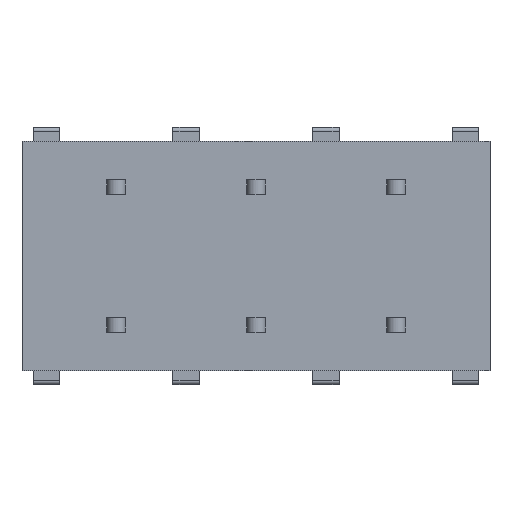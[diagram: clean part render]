
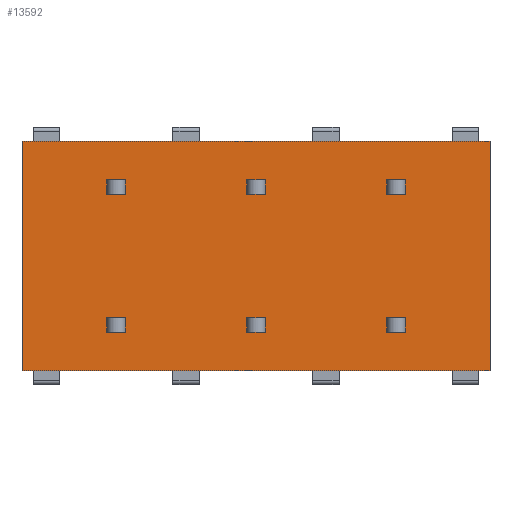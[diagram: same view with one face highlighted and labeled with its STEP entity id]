
A CAD part, front view. The second image highlights one B-rep face of the part: STEP entity #13592.
In plain terms, the highlighted planar face has unit normal (0, -1, 0).
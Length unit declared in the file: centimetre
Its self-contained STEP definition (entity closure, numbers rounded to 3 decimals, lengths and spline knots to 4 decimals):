
#876=VERTEX_POINT('',#17209);
#877=VERTEX_POINT('',#17210);
#880=VERTEX_POINT('',#17218);
#881=VERTEX_POINT('',#17219);
#886=VERTEX_POINT('',#17232);
#890=VERTEX_POINT('',#17243);
#905=VERTEX_POINT('',#17287);
#907=VERTEX_POINT('',#17295);
#1241=VERTEX_POINT('',#18794);
#1242=VERTEX_POINT('',#18796);
#1406=VERTEX_POINT('',#19343);
#1407=VERTEX_POINT('',#19344);
#1410=VERTEX_POINT('',#19352);
#1416=VERTEX_POINT('',#19367);
#1417=VERTEX_POINT('',#19368);
#1420=VERTEX_POINT('',#19376);
#1422=VERTEX_POINT('',#19382);
#1443=VERTEX_POINT('',#19443);
#1614=VERTEX_POINT('',#20022);
#1615=VERTEX_POINT('',#20023);
#1618=VERTEX_POINT('',#20031);
#1624=VERTEX_POINT('',#20046);
#1625=VERTEX_POINT('',#20047);
#1628=VERTEX_POINT('',#20055);
#1630=VERTEX_POINT('',#20061);
#1651=VERTEX_POINT('',#20122);
#2075=VERTEX_POINT('',#21894);
#2076=VERTEX_POINT('',#21896);
#2209=VECTOR('',#14426,1.);
#2213=VECTOR('',#14431,1.);
#2220=VECTOR('',#14439,1.);
#2225=VECTOR('',#14447,1.);
#2241=VECTOR('',#14484,1.);
#2244=VECTOR('',#14492,1.);
#2247=VECTOR('',#14500,1.);
#2248=VECTOR('',#14502,1.);
#2646=VECTOR('',#15036,1.);
#2814=VECTOR('',#15417,1.);
#2818=VECTOR('',#15422,1.);
#2824=VECTOR('',#15432,1.);
#2827=VECTOR('',#15438,1.);
#2830=VECTOR('',#15442,1.);
#2852=VECTOR('',#15491,1.);
#2853=VECTOR('',#15493,1.);
#2857=VECTOR('',#15498,1.);
#3038=VECTOR('',#15899,1.);
#3042=VECTOR('',#15904,1.);
#3048=VECTOR('',#15914,1.);
#3051=VECTOR('',#15920,1.);
#3054=VECTOR('',#15924,1.);
#3076=VECTOR('',#15973,1.);
#3077=VECTOR('',#15975,1.);
#3081=VECTOR('',#15980,1.);
#3595=VECTOR('',#16736,1.);
#3599=VECTOR('',#16742,1.);
#3600=VECTOR('',#16744,1.);
#3737=LINE('',#17208,#2209);
#3741=LINE('',#17217,#2213);
#3748=LINE('',#17231,#2220);
#3753=LINE('',#17242,#2225);
#3769=LINE('',#17286,#2241);
#3772=LINE('',#17294,#2244);
#3775=LINE('',#17302,#2247);
#3776=LINE('',#17304,#2248);
#4174=LINE('',#18795,#2646);
#4342=LINE('',#19342,#2814);
#4346=LINE('',#19351,#2818);
#4352=LINE('',#19366,#2824);
#4355=LINE('',#19375,#2827);
#4358=LINE('',#19381,#2830);
#4380=LINE('',#19440,#2852);
#4381=LINE('',#19442,#2853);
#4385=LINE('',#19449,#2857);
#4566=LINE('',#20021,#3038);
#4570=LINE('',#20030,#3042);
#4576=LINE('',#20045,#3048);
#4579=LINE('',#20054,#3051);
#4582=LINE('',#20060,#3054);
#4604=LINE('',#20119,#3076);
#4605=LINE('',#20121,#3077);
#4609=LINE('',#20128,#3081);
#5123=LINE('',#21895,#3595);
#5127=LINE('',#21902,#3599);
#5128=LINE('',#21904,#3600);
#5336=EDGE_CURVE('',#876,#877,#3737,.T.);
#5340=EDGE_CURVE('',#880,#881,#3741,.T.);
#5347=EDGE_CURVE('',#886,#876,#3748,.T.);
#5353=EDGE_CURVE('',#890,#880,#3753,.T.);
#5375=EDGE_CURVE('',#877,#905,#3769,.T.);
#5379=EDGE_CURVE('',#881,#907,#3772,.T.);
#5383=EDGE_CURVE('',#907,#890,#3775,.T.);
#5384=EDGE_CURVE('',#905,#886,#3776,.T.);
#5886=EDGE_CURVE('',#1242,#1241,#4174,.T.);
#6137=EDGE_CURVE('',#1406,#1407,#4342,.T.);
#6141=EDGE_CURVE('',#1410,#1406,#4346,.T.);
#6148=EDGE_CURVE('',#1416,#1417,#4352,.T.);
#6152=EDGE_CURVE('',#1420,#1416,#4355,.T.);
#6155=EDGE_CURVE('',#1422,#1420,#4358,.T.);
#6184=EDGE_CURVE('',#1417,#1422,#4380,.T.);
#6185=EDGE_CURVE('',#1443,#1410,#4381,.T.);
#6189=EDGE_CURVE('',#1407,#1443,#4385,.T.);
#6453=EDGE_CURVE('',#1614,#1615,#4566,.T.);
#6457=EDGE_CURVE('',#1618,#1614,#4570,.T.);
#6464=EDGE_CURVE('',#1624,#1625,#4576,.T.);
#6468=EDGE_CURVE('',#1628,#1624,#4579,.T.);
#6471=EDGE_CURVE('',#1630,#1628,#4582,.T.);
#6500=EDGE_CURVE('',#1625,#1630,#4604,.T.);
#6501=EDGE_CURVE('',#1651,#1618,#4605,.T.);
#6505=EDGE_CURVE('',#1615,#1651,#4609,.T.);
#7147=EDGE_CURVE('',#2076,#2075,#5123,.T.);
#7151=EDGE_CURVE('',#1241,#2076,#5127,.T.);
#7152=EDGE_CURVE('',#1242,#2075,#5128,.T.);
#11149=ORIENTED_EDGE('',*,*,#5379,.F.);
#11150=ORIENTED_EDGE('',*,*,#5340,.F.);
#11151=ORIENTED_EDGE('',*,*,#5353,.F.);
#11152=ORIENTED_EDGE('',*,*,#5383,.F.);
#11153=ORIENTED_EDGE('',*,*,#5375,.F.);
#11154=ORIENTED_EDGE('',*,*,#5336,.F.);
#11155=ORIENTED_EDGE('',*,*,#5347,.F.);
#11156=ORIENTED_EDGE('',*,*,#5384,.F.);
#11157=ORIENTED_EDGE('',*,*,#6457,.T.);
#11158=ORIENTED_EDGE('',*,*,#6453,.T.);
#11159=ORIENTED_EDGE('',*,*,#6505,.T.);
#11160=ORIENTED_EDGE('',*,*,#6501,.T.);
#11161=ORIENTED_EDGE('',*,*,#6471,.T.);
#11162=ORIENTED_EDGE('',*,*,#6468,.T.);
#11163=ORIENTED_EDGE('',*,*,#6464,.T.);
#11164=ORIENTED_EDGE('',*,*,#6500,.T.);
#11165=ORIENTED_EDGE('',*,*,#6155,.T.);
#11166=ORIENTED_EDGE('',*,*,#6152,.T.);
#11167=ORIENTED_EDGE('',*,*,#6148,.T.);
#11168=ORIENTED_EDGE('',*,*,#6184,.T.);
#11169=ORIENTED_EDGE('',*,*,#6141,.T.);
#11170=ORIENTED_EDGE('',*,*,#6137,.T.);
#11171=ORIENTED_EDGE('',*,*,#6189,.T.);
#11172=ORIENTED_EDGE('',*,*,#6185,.T.);
#11173=ORIENTED_EDGE('',*,*,#7147,.T.);
#11174=ORIENTED_EDGE('',*,*,#7152,.F.);
#11175=ORIENTED_EDGE('',*,*,#5886,.T.);
#11176=ORIENTED_EDGE('',*,*,#7151,.T.);
#12013=EDGE_LOOP('',(#11149,#11150,#11151,#11152));
#12014=EDGE_LOOP('',(#11153,#11154,#11155,#11156));
#12015=EDGE_LOOP('',(#11157,#11158,#11159,#11160));
#12016=EDGE_LOOP('',(#11161,#11162,#11163,#11164));
#12017=EDGE_LOOP('',(#11165,#11166,#11167,#11168));
#12018=EDGE_LOOP('',(#11169,#11170,#11171,#11172));
#12019=EDGE_LOOP('',(#11173,#11174,#11175,#11176));
#12833=FACE_BOUND('',#12013,.T.);
#12834=FACE_BOUND('',#12014,.T.);
#12835=FACE_BOUND('',#12015,.T.);
#12836=FACE_BOUND('',#12016,.T.);
#12837=FACE_BOUND('',#12017,.T.);
#12838=FACE_BOUND('',#12018,.T.);
#12839=FACE_BOUND('',#12019,.T.);
#13592=ADVANCED_FACE('',(#12833,#12834,#12835,#12836,#12837,#12838,#12839),
#14122,.T.);
#14122=PLANE('',#22724);
#14426=DIRECTION('',(0.,0.,1.));
#14431=DIRECTION('',(0.,0.,-1.));
#14439=DIRECTION('',(1.,0.,0.));
#14447=DIRECTION('',(-1.,0.,0.));
#14484=DIRECTION('',(-1.,0.,0.));
#14492=DIRECTION('',(1.,0.,0.));
#14500=DIRECTION('',(0.,0.,1.));
#14502=DIRECTION('',(0.,0.,-1.));
#15036=DIRECTION('',(0.,0.,1.));
#15417=DIRECTION('',(0.,0.,-1.));
#15422=DIRECTION('',(1.,0.,0.));
#15432=DIRECTION('',(1.,0.,0.));
#15438=DIRECTION('',(0.,0.,1.));
#15442=DIRECTION('',(-1.,0.,0.));
#15491=DIRECTION('',(0.,0.,-1.));
#15493=DIRECTION('',(0.,0.,1.));
#15498=DIRECTION('',(-1.,0.,0.));
#15899=DIRECTION('',(0.,0.,-1.));
#15904=DIRECTION('',(1.,0.,0.));
#15914=DIRECTION('',(1.,0.,0.));
#15920=DIRECTION('',(0.,0.,1.));
#15924=DIRECTION('',(-1.,0.,0.));
#15973=DIRECTION('',(0.,0.,-1.));
#15975=DIRECTION('',(0.,0.,1.));
#15980=DIRECTION('',(-1.,0.,0.));
#16736=DIRECTION('',(0.,0.,-1.));
#16742=DIRECTION('',(-1.,0.,0.));
#16743=DIRECTION('',(0.,-1.,0.));
#16744=DIRECTION('',(-1.,0.,0.));
#17208=CARTESIAN_POINT('',(-0.26,0.,-0.1875));
#17209=CARTESIAN_POINT('',(-0.26,0.,-0.415));
#17210=CARTESIAN_POINT('',(-0.26,0.,-0.335));
#17217=CARTESIAN_POINT('',(-0.36,0.,0.1875));
#17218=CARTESIAN_POINT('',(-0.36,0.,0.415));
#17219=CARTESIAN_POINT('',(-0.36,0.,0.335));
#17231=CARTESIAN_POINT('',(-0.465,0.,-0.415));
#17232=CARTESIAN_POINT('',(-0.36,0.,-0.415));
#17242=CARTESIAN_POINT('',(-0.465,0.,0.415));
#17243=CARTESIAN_POINT('',(-0.26,0.,0.415));
#17286=CARTESIAN_POINT('',(-0.465,0.,-0.335));
#17287=CARTESIAN_POINT('',(-0.36,0.,-0.335));
#17294=CARTESIAN_POINT('',(-0.465,0.,0.335));
#17295=CARTESIAN_POINT('',(-0.26,0.,0.335));
#17302=CARTESIAN_POINT('',(-0.26,0.,0.1875));
#17304=CARTESIAN_POINT('',(-0.36,0.,-0.1875));
#18794=CARTESIAN_POINT('',(1.726,0.,0.625));
#18795=CARTESIAN_POINT('',(1.726,0.,-0.625));
#18796=CARTESIAN_POINT('',(1.726,0.,-0.625));
#19342=CARTESIAN_POINT('',(1.264,0.,-0.1875));
#19343=CARTESIAN_POINT('',(1.264,0.,-0.335));
#19344=CARTESIAN_POINT('',(1.264,0.,-0.415));
#19351=CARTESIAN_POINT('',(0.607,0.,-0.335));
#19352=CARTESIAN_POINT('',(1.164,0.,-0.335));
#19366=CARTESIAN_POINT('',(0.607,0.,0.415));
#19367=CARTESIAN_POINT('',(1.164,0.,0.415));
#19368=CARTESIAN_POINT('',(1.264,0.,0.415));
#19375=CARTESIAN_POINT('',(1.164,0.,0.1875));
#19376=CARTESIAN_POINT('',(1.164,0.,0.335));
#19381=CARTESIAN_POINT('',(0.607,0.,0.335));
#19382=CARTESIAN_POINT('',(1.264,0.,0.335));
#19440=CARTESIAN_POINT('',(1.264,0.,0.1875));
#19442=CARTESIAN_POINT('',(1.164,0.,-0.1875));
#19443=CARTESIAN_POINT('',(1.164,0.,-0.415));
#19449=CARTESIAN_POINT('',(0.607,0.,-0.415));
#20021=CARTESIAN_POINT('',(0.502,0.,-0.1875));
#20022=CARTESIAN_POINT('',(0.502,0.,-0.335));
#20023=CARTESIAN_POINT('',(0.502,0.,-0.415));
#20030=CARTESIAN_POINT('',(0.226,0.,-0.335));
#20031=CARTESIAN_POINT('',(0.402,0.,-0.335));
#20045=CARTESIAN_POINT('',(0.226,0.,0.415));
#20046=CARTESIAN_POINT('',(0.402,0.,0.415));
#20047=CARTESIAN_POINT('',(0.502,0.,0.415));
#20054=CARTESIAN_POINT('',(0.402,0.,0.1875));
#20055=CARTESIAN_POINT('',(0.402,0.,0.335));
#20060=CARTESIAN_POINT('',(0.226,0.,0.335));
#20061=CARTESIAN_POINT('',(0.502,0.,0.335));
#20119=CARTESIAN_POINT('',(0.502,0.,0.1875));
#20121=CARTESIAN_POINT('',(0.402,0.,-0.1875));
#20122=CARTESIAN_POINT('',(0.402,0.,-0.415));
#20128=CARTESIAN_POINT('',(0.226,0.,-0.415));
#21894=CARTESIAN_POINT('',(-0.822,0.,-0.625));
#21895=CARTESIAN_POINT('',(-0.822,0.,0.625));
#21896=CARTESIAN_POINT('',(-0.822,0.,0.625));
#21902=CARTESIAN_POINT('',(-0.762,0.,0.625));
#21903=CARTESIAN_POINT('',(-0.762,0.,0.));
#21904=CARTESIAN_POINT('',(-0.762,0.,-0.625));
#22724=AXIS2_PLACEMENT_3D('',#21903,#16743,$);
